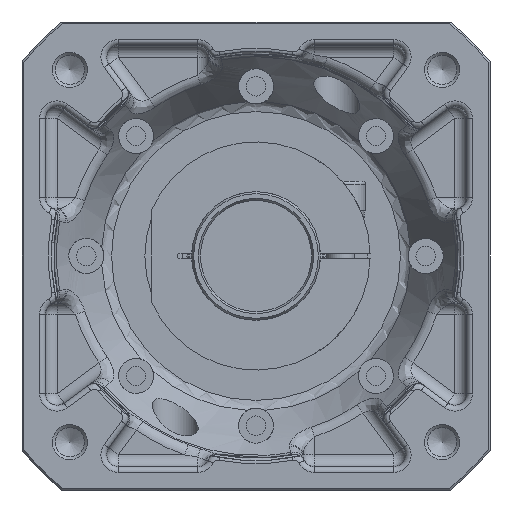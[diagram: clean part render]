
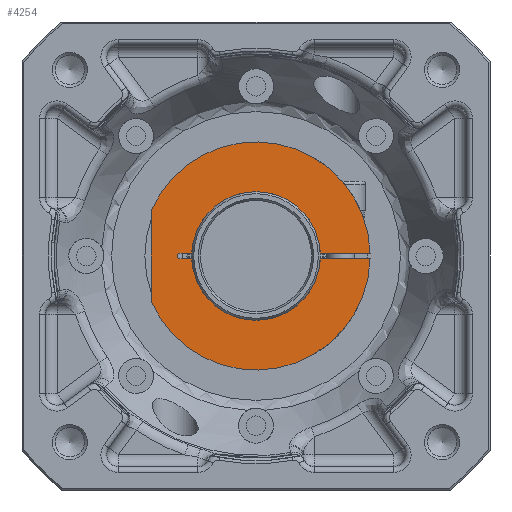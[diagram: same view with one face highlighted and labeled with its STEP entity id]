
A CAD part, left-side view. The second image highlights one B-rep face of the part: STEP entity #4254.
In plain terms, the highlighted planar face has unit normal (-1, 0, 0).
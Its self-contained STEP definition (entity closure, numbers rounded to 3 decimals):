
#3142=FACE_OUTER_BOUND('',#5153,.T.);
#3534=LINE('',#15932,#3776);
#3539=LINE('',#15946,#3781);
#3543=LINE('',#15958,#3785);
#3547=LINE('',#15972,#3789);
#3552=LINE('',#16009,#3794);
#3776=VECTOR('',#11675,1.);
#3781=VECTOR('',#11688,1.);
#3785=VECTOR('',#11700,1.);
#3789=VECTOR('',#11714,1.);
#3794=VECTOR('',#11731,1.);
#4254=ADVANCED_FACE('',(#3142),#4400,.F.);
#4400=PLANE('',#9887);
#5153=EDGE_LOOP('',(#6895,#6896,#6897,#6898,#6899,#6900,#6901,#6902,#6903,
#6904));
#6895=ORIENTED_EDGE('',*,*,#8497,.T.);
#6896=ORIENTED_EDGE('',*,*,#8501,.T.);
#6897=ORIENTED_EDGE('',*,*,#8504,.T.);
#6898=ORIENTED_EDGE('',*,*,#8507,.T.);
#6899=ORIENTED_EDGE('',*,*,#8510,.T.);
#6900=ORIENTED_EDGE('',*,*,#8513,.T.);
#6901=ORIENTED_EDGE('',*,*,#8517,.T.);
#6902=ORIENTED_EDGE('',*,*,#8524,.T.);
#6903=ORIENTED_EDGE('',*,*,#8527,.T.);
#6904=ORIENTED_EDGE('',*,*,#8533,.T.);
#7604=VERTEX_POINT('',#15931);
#7605=VERTEX_POINT('',#15933);
#7607=VERTEX_POINT('',#15939);
#7609=VERTEX_POINT('',#15945);
#7611=VERTEX_POINT('',#15951);
#7613=VERTEX_POINT('',#15957);
#7615=VERTEX_POINT('',#15963);
#7618=VERTEX_POINT('',#15971);
#7624=VERTEX_POINT('',#16002);
#7626=VERTEX_POINT('',#16008);
#8497=EDGE_CURVE('',#7605,#7604,#3534,.T.);
#8501=EDGE_CURVE('',#7604,#7607,#9052,.T.);
#8504=EDGE_CURVE('',#7607,#7609,#3539,.T.);
#8507=EDGE_CURVE('',#7609,#7611,#9054,.T.);
#8510=EDGE_CURVE('',#7611,#7613,#3543,.T.);
#8513=EDGE_CURVE('',#7613,#7615,#9056,.T.);
#8517=EDGE_CURVE('',#7615,#7618,#3547,.T.);
#8524=EDGE_CURVE('',#7618,#7624,#9061,.T.);
#8527=EDGE_CURVE('',#7624,#7626,#3552,.T.);
#8533=EDGE_CURVE('',#7626,#7605,#9065,.T.);
#9052=CIRCLE('',#9864,11.);
#9054=CIRCLE('',#9868,0.5);
#9056=CIRCLE('',#9872,11.);
#9061=CIRCLE('',#9879,19.5);
#9065=CIRCLE('',#9885,19.5);
#9864=AXIS2_PLACEMENT_3D('',#15940,#11682,#11683);
#9868=AXIS2_PLACEMENT_3D('',#15952,#11694,#11695);
#9872=AXIS2_PLACEMENT_3D('',#15964,#11706,#11707);
#9879=AXIS2_PLACEMENT_3D('',#16003,#11725,#11726);
#9885=AXIS2_PLACEMENT_3D('',#16029,#11741,#11742);
#9887=AXIS2_PLACEMENT_3D('',#16031,#11745,#11746);
#11675=DIRECTION('',(0.,1.,0.));
#11682=DIRECTION('',(1.,0.,0.));
#11683=DIRECTION('',(0.,0.,1.));
#11688=DIRECTION('',(0.,1.,0.));
#11694=DIRECTION('',(1.,0.,0.));
#11695=DIRECTION('',(0.,0.,1.));
#11700=DIRECTION('',(0.,-1.,0.));
#11706=DIRECTION('',(1.,0.,0.));
#11707=DIRECTION('',(0.,0.,1.));
#11714=DIRECTION('',(0.,-1.,0.));
#11725=DIRECTION('',(-1.,0.,0.));
#11726=DIRECTION('',(0.,0.,1.));
#11731=DIRECTION('',(0.,0.,-1.));
#11741=DIRECTION('',(-1.,0.,0.));
#11742=DIRECTION('',(0.,0.,1.));
#11745=DIRECTION('',(1.,0.,0.));
#11746=DIRECTION('',(0.,0.,1.));
#15931=CARTESIAN_POINT('',(-167.3,-10.989,-0.5));
#15932=CARTESIAN_POINT('',(-167.3,-19.494,-0.5));
#15933=CARTESIAN_POINT('',(-167.3,-19.494,-0.5));
#15939=CARTESIAN_POINT('',(-167.3,10.989,-0.5));
#15940=CARTESIAN_POINT('',(-167.3,0.,0.));
#15945=CARTESIAN_POINT('',(-167.3,13.,-0.5));
#15946=CARTESIAN_POINT('',(-167.3,10.989,-0.5));
#15951=CARTESIAN_POINT('',(-167.3,13.,0.5));
#15952=CARTESIAN_POINT('',(-167.3,13.,0.));
#15957=CARTESIAN_POINT('',(-167.3,10.989,0.5));
#15958=CARTESIAN_POINT('',(-167.3,13.,0.5));
#15963=CARTESIAN_POINT('',(-167.3,-10.989,0.5));
#15964=CARTESIAN_POINT('',(-167.3,0.,0.));
#15971=CARTESIAN_POINT('',(-167.3,-19.494,0.5));
#15972=CARTESIAN_POINT('',(-167.3,-10.989,0.5));
#16002=CARTESIAN_POINT('',(-167.3,17.9,7.736));
#16003=CARTESIAN_POINT('',(-167.3,0.,0.));
#16008=CARTESIAN_POINT('',(-167.3,17.9,-7.736));
#16009=CARTESIAN_POINT('',(-167.3,17.9,7.736));
#16029=CARTESIAN_POINT('',(-167.3,0.,0.));
#16031=CARTESIAN_POINT('',(-167.3,0.,0.));
